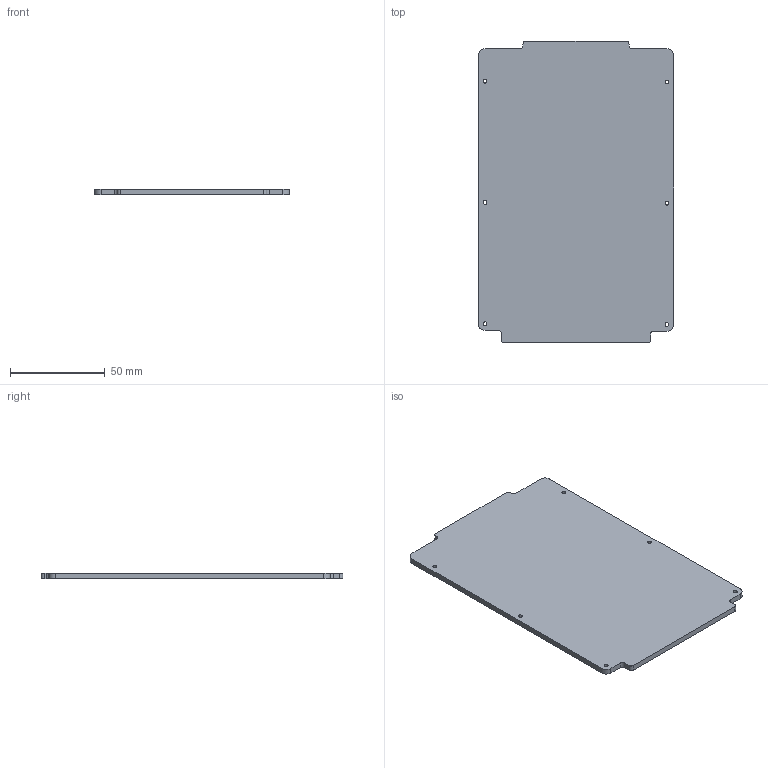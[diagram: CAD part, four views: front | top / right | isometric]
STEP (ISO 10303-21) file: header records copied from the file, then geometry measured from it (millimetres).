
FILE_DESCRIPTION(('Open CASCADE Model'),'2;1');
FILE_NAME('Open CASCADE Shape Model','2026-10-01T15:23:51',('Author'),( 'Open CASCADE'),'Open CASCADE STEP processor 7.9','Open CASCADE 7.9' ,'Unknown');
FILE_SCHEMA(('AUTOMOTIVE_DESIGN { 1 0 10303 214 1 1 1 1 }'));
Length unit declared in the file: millimetre
Products named in the file (1): Open CASCADE STEP translator 7.9 15
Bounding box: 102.96 x 159.02 x 3 mm (x, y, z)
Volume: 48009.3 mm3; surface area: 33657.6 mm2
Topology: 1 solids, 1 shells, 32 faces, 90 edges, 60 vertices
Faces by surface type: cylinder 18, plane 14
Full cylindrical faces by diameter (mm): 2 x6
Entity records: 2326 total; most frequent: CARTESIAN_POINT 507, DIRECTION 348, LINE 198, VECTOR 198, ORIENTED_EDGE 180, PCURVE 180, DEFINITIONAL_REPRESENTATION 180, EDGE_CURVE 90
